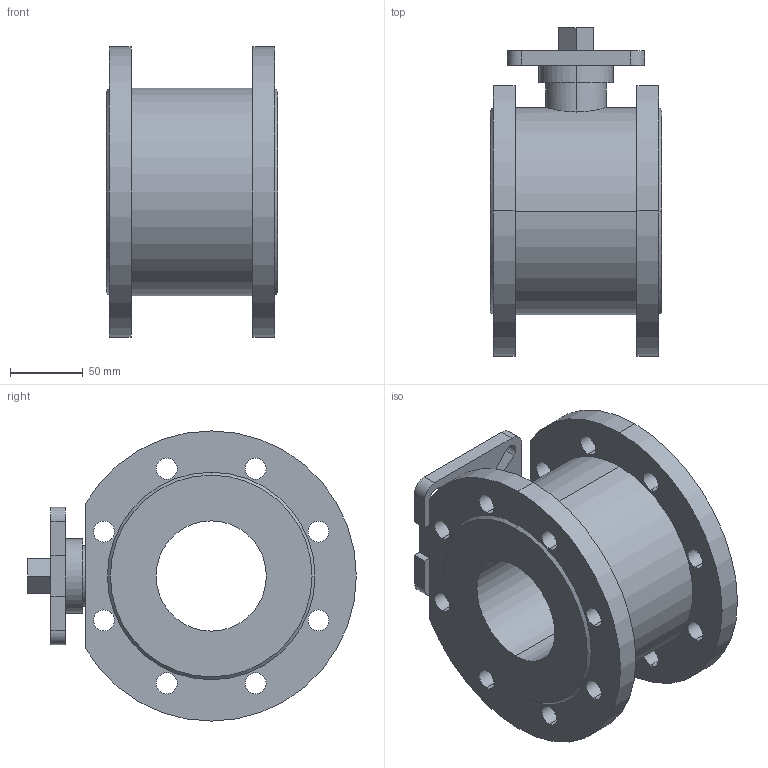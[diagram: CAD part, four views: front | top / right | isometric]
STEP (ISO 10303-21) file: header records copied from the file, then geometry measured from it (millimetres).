
FILE_DESCRIPTION (( 'STEP AP203' ), '1' );
FILE_NAME ('01.622I080016CP.STEP', '2018-10-23T08:50:56', ( '' ), ( '' ), 'SwSTEP 2.0', 'SolidWorks 2014', '' );
FILE_SCHEMA (( 'CONFIG_CONTROL_DESIGN' ));
Length unit declared in the file: millimetre
Products named in the file (1): 01.622I080016CP
Bounding box: 118 x 226.5 x 200 mm (x, y, z)
Volume: 1882082 mm3; surface area: 196063.2 mm2
Topology: 1 solids, 1 shells, 102 faces, 276 edges, 184 vertices
Faces by surface type: cylinder 62, plane 36, cone 4
Entity records: 3529 total; most frequent: CARTESIAN_POINT 665, DIRECTION 610, ORIENTED_EDGE 552, EDGE_CURVE 276, AXIS2_PLACEMENT_3D 233, VERTEX_POINT 184, EDGE_LOOP 152, LINE 144
